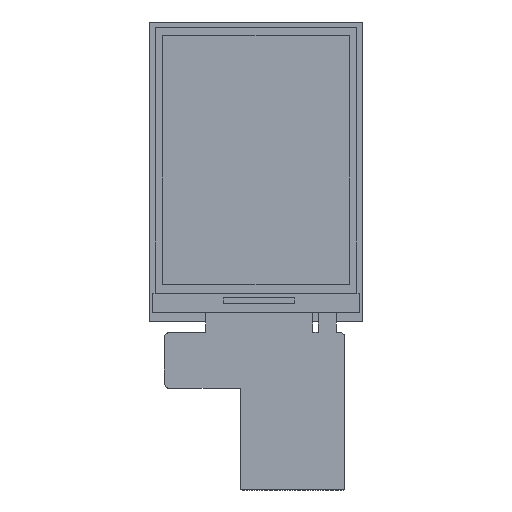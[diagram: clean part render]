
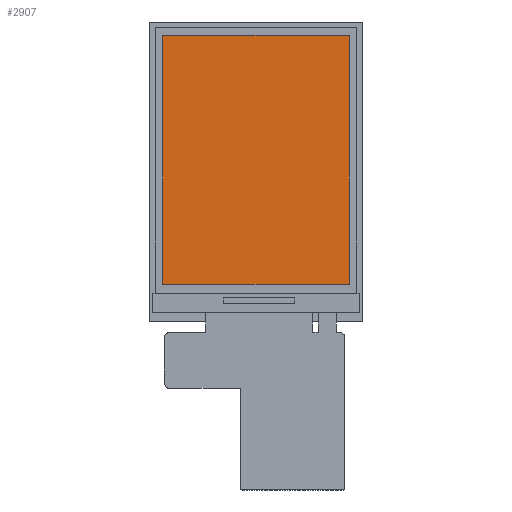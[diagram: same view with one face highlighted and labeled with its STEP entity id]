
A CAD part, top view. The second image highlights one B-rep face of the part: STEP entity #2907.
In plain terms, the highlighted planar face has unit normal (0, 0, 1).
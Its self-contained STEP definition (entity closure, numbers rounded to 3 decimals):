
#148 = VERTEX_POINT ( 'NONE', #9578 ) ;
#412 = DIRECTION ( 'NONE',  ( -1., 0., 0. ) ) ;
#480 = EDGE_CURVE ( 'NONE', #8355, #5316, #5014, .T. ) ;
#537 = DIRECTION ( 'NONE',  ( -1., 0., 0. ) ) ;
#1785 = CARTESIAN_POINT ( 'NONE',  ( 18.36, 0., 2.1 ) ) ;
#2039 = VERTEX_POINT ( 'NONE', #6709 ) ;
#2113 = AXIS2_PLACEMENT_3D ( 'NONE', #3838, #3082, #412 ) ;
#2907 = ADVANCED_FACE ( 'NONE', ( #8195 ), #3908, .F. ) ;
#3082 = DIRECTION ( 'NONE',  ( 0., 0., -1. ) ) ;
#3524 = ORIENTED_EDGE ( 'NONE', *, *, #3784, .T. ) ;
#3777 = LINE ( 'NONE', #4916, #8987 ) ;
#3784 = EDGE_CURVE ( 'NONE', #2039, #8355, #10692, .T. ) ;
#3838 = CARTESIAN_POINT ( 'NONE',  ( 0., 0., 2.1 ) ) ;
#3908 = PLANE ( 'NONE',  #2113 ) ;
#4905 = ORIENTED_EDGE ( 'NONE', *, *, #5622, .T. ) ;
#4916 = CARTESIAN_POINT ( 'NONE',  ( 0., -22.11, 2.1 ) ) ;
#5014 = LINE ( 'NONE', #8231, #9961 ) ;
#5127 = ORIENTED_EDGE ( 'NONE', *, *, #480, .T. ) ;
#5297 = DIRECTION ( 'NONE',  ( 0., 1., 0. ) ) ;
#5316 = VERTEX_POINT ( 'NONE', #6840 ) ;
#5622 = EDGE_CURVE ( 'NONE', #148, #2039, #3777, .T. ) ;
#5820 = CARTESIAN_POINT ( 'NONE',  ( 18.36, 26.85, 2.1 ) ) ;
#6155 = EDGE_CURVE ( 'NONE', #5316, #148, #7159, .T. ) ;
#6709 = CARTESIAN_POINT ( 'NONE',  ( 18.36, -22.11, 2.1 ) ) ;
#6840 = CARTESIAN_POINT ( 'NONE',  ( -18.36, 26.85, 2.1 ) ) ;
#7002 = EDGE_LOOP ( 'NONE', ( #5127, #7537, #4905, #3524 ) ) ;
#7159 = LINE ( 'NONE', #11301, #10908 ) ;
#7537 = ORIENTED_EDGE ( 'NONE', *, *, #6155, .T. ) ;
#8195 = FACE_OUTER_BOUND ( 'NONE', #7002, .T. ) ;
#8231 = CARTESIAN_POINT ( 'NONE',  ( 0., 26.85, 2.1 ) ) ;
#8355 = VERTEX_POINT ( 'NONE', #5820 ) ;
#8593 = VECTOR ( 'NONE', #5297, 1000. ) ;
#8987 = VECTOR ( 'NONE', #11088, 1000. ) ;
#9578 = CARTESIAN_POINT ( 'NONE',  ( -18.36, -22.11, 2.1 ) ) ;
#9961 = VECTOR ( 'NONE', #537, 1000. ) ;
#10492 = DIRECTION ( 'NONE',  ( 0., -1., 0. ) ) ;
#10692 = LINE ( 'NONE', #1785, #8593 ) ;
#10908 = VECTOR ( 'NONE', #10492, 1000. ) ;
#11088 = DIRECTION ( 'NONE',  ( 1., 0., 0. ) ) ;
#11301 = CARTESIAN_POINT ( 'NONE',  ( -18.36, 0., 2.1 ) ) ;
